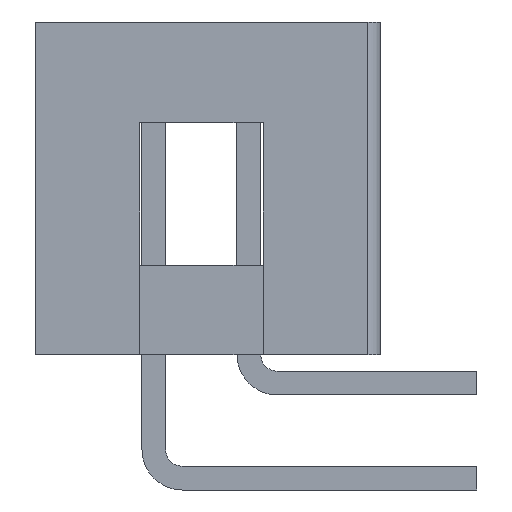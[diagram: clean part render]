
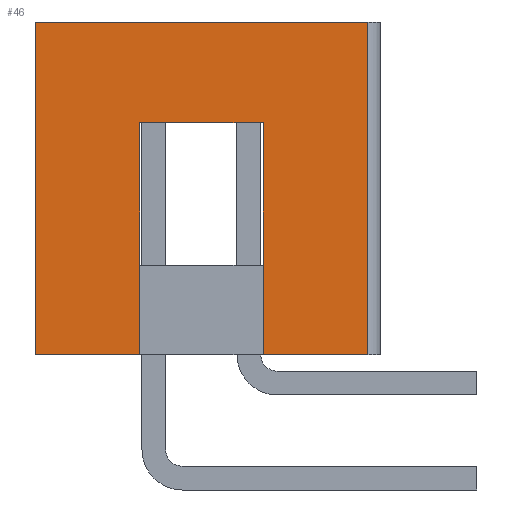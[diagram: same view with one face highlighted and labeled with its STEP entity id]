
A CAD part, left-side view. The second image highlights one B-rep face of the part: STEP entity #46.
In plain terms, the highlighted planar face has unit normal (-1, 0, 0).
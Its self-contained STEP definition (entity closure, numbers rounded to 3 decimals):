
#46=ADVANCED_FACE('',(#319),#320,.F.);
#319=FACE_OUTER_BOUND('',#895,.T.);
#320=PLANE('',#896);
#895=EDGE_LOOP('',(#1471,#1472,#1473,#1474,#1475,#1476,#1477,#1478));
#896=AXIS2_PLACEMENT_3D('',#1479,#1480,#1481);
#1471=ORIENTED_EDGE('',*,*,#3747,.F.);
#1472=ORIENTED_EDGE('',*,*,#3748,.F.);
#1473=ORIENTED_EDGE('',*,*,#3749,.F.);
#1474=ORIENTED_EDGE('',*,*,#3750,.F.);
#1475=ORIENTED_EDGE('',*,*,#3751,.F.);
#1476=ORIENTED_EDGE('',*,*,#3752,.T.);
#1477=ORIENTED_EDGE('',*,*,#3753,.F.);
#1478=ORIENTED_EDGE('',*,*,#3754,.F.);
#1479=CARTESIAN_POINT('',(-13.97,0.0,0.0));
#1480=DIRECTION('',(1.0,0.0,0.0));
#1481=DIRECTION('',(0.0,1.0,0.0));
#3747=EDGE_CURVE('',#4477,#4478,#4479,.T.);
#3748=EDGE_CURVE('',#4480,#4477,#4481,.T.);
#3749=EDGE_CURVE('',#4482,#4480,#4483,.T.);
#3750=EDGE_CURVE('',#4484,#4482,#4485,.T.);
#3751=EDGE_CURVE('',#4486,#4484,#4487,.T.);
#3752=EDGE_CURVE('',#4486,#4488,#4489,.T.);
#3753=EDGE_CURVE('',#4490,#4488,#4491,.T.);
#3754=EDGE_CURVE('',#4478,#4490,#4492,.T.);
#4477=VERTEX_POINT('',#5691);
#4478=VERTEX_POINT('',#5692);
#4479=LINE('',#5693,#5694);
#4480=VERTEX_POINT('',#5695);
#4481=LINE('',#5696,#5697);
#4482=VERTEX_POINT('',#5698);
#4483=LINE('',#5699,#5700);
#4484=VERTEX_POINT('',#5701);
#4485=LINE('',#5702,#5703);
#4486=VERTEX_POINT('',#5704);
#4487=LINE('',#5705,#5706);
#4488=VERTEX_POINT('',#5707);
#4489=LINE('',#5708,#5709);
#4490=VERTEX_POINT('',#5710);
#4491=LINE('',#5711,#5712);
#4492=LINE('',#5713,#5714);
#5691=CARTESIAN_POINT('',(-13.97,0.33,-8.89));
#5692=CARTESIAN_POINT('',(-13.97,3.124,-8.89));
#5693=CARTESIAN_POINT('',(-13.97,0.33,-8.89));
#5694=VECTOR('',#7575,2.794);
#5695=CARTESIAN_POINT('',(-13.97,0.33,0.0));
#5696=CARTESIAN_POINT('',(-13.97,0.33,0.0));
#5697=VECTOR('',#7576,8.89);
#5698=CARTESIAN_POINT('',(-13.97,9.22,0.0));
#5699=CARTESIAN_POINT('',(-13.97,9.22,0.0));
#5700=VECTOR('',#7577,8.89);
#5701=CARTESIAN_POINT('',(-13.97,9.22,-8.89));
#5702=CARTESIAN_POINT('',(-13.97,9.22,-8.89));
#5703=VECTOR('',#7578,8.89);
#5704=CARTESIAN_POINT('',(-13.97,6.426,-8.89));
#5705=CARTESIAN_POINT('',(-13.97,6.426,-8.89));
#5706=VECTOR('',#7579,2.794);
#5707=CARTESIAN_POINT('',(-13.97,6.426,-2.69));
#5708=CARTESIAN_POINT('',(-13.97,6.426,-8.89));
#5709=VECTOR('',#7580,6.2);
#5710=CARTESIAN_POINT('',(-13.97,3.124,-2.69));
#5711=CARTESIAN_POINT('',(-13.97,3.124,-2.69));
#5712=VECTOR('',#7581,3.302);
#5713=CARTESIAN_POINT('',(-13.97,3.124,-8.89));
#5714=VECTOR('',#7582,6.2);
#7575=DIRECTION('',(0.0,1.0,0.0));
#7576=DIRECTION('',(0.0,0.0,-1.0));
#7577=DIRECTION('',(0.0,-1.0,0.0));
#7578=DIRECTION('',(0.0,0.0,1.0));
#7579=DIRECTION('',(0.0,1.0,0.0));
#7580=DIRECTION('',(0.0,0.0,1.0));
#7581=DIRECTION('',(0.0,1.0,0.0));
#7582=DIRECTION('',(0.0,0.0,1.0));
